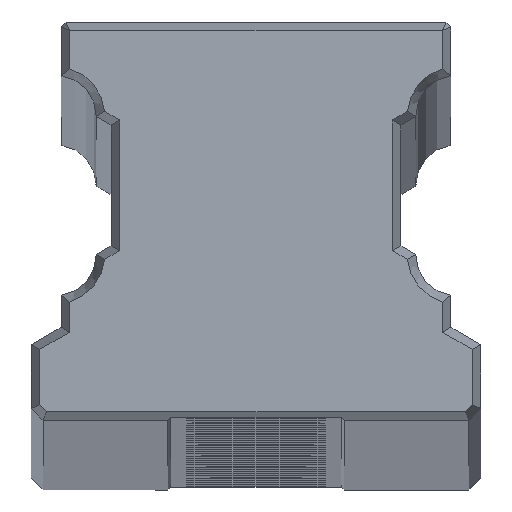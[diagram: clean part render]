
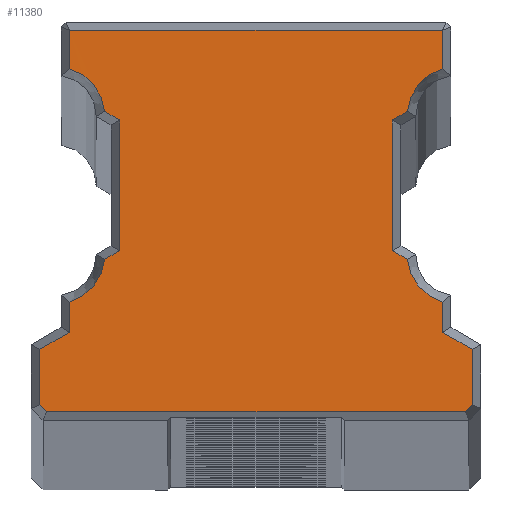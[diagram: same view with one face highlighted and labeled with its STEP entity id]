
A CAD part, top view. The second image highlights one B-rep face of the part: STEP entity #11380.
In plain terms, the highlighted planar face has unit normal (0, 0, 1).
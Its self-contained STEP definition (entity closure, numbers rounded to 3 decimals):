
#3982=DIRECTION('',(1.,0.,0.));
#3983=VECTOR('',#3982,41.896);
#3984=CARTESIAN_POINT('',(-20.948,0.85,0.));
#3985=LINE('',#3984,#3983);
#3986=DIRECTION('',(0.707,-0.707,0.));
#3987=VECTOR('',#3986,0.993);
#3988=CARTESIAN_POINT('',(-21.65,1.552,0.));
#3989=LINE('',#3988,#3987);
#3990=DIRECTION('',(0.,-1.,0.));
#3991=VECTOR('',#3990,5.525);
#3992=CARTESIAN_POINT('',(-21.65,7.077,0.));
#3993=LINE('',#3992,#3991);
#3994=DIRECTION('',(-0.866,-0.5,0.));
#3995=VECTOR('',#3994,3.464);
#3996=CARTESIAN_POINT('',(-18.65,8.809,0.));
#3997=LINE('',#3996,#3995);
#3998=DIRECTION('',(0.,-1.,0.));
#3999=VECTOR('',#3998,3.021);
#4000=CARTESIAN_POINT('',(-18.65,11.831,0.));
#4001=LINE('',#4000,#3999);
#4002=CARTESIAN_POINT('',(-20.056,16.556,0.));
#4003=DIRECTION('',(0.,0.,-1.));
#4004=DIRECTION('',(0.996,-0.094,0.));
#4005=AXIS2_PLACEMENT_3D('',#4002,#4003,#4004);
#4007=DIRECTION('',(-0.866,-0.5,0.));
#4008=VECTOR('',#4007,1.729);
#4009=CARTESIAN_POINT('',(-13.65,16.959,0.));
#4010=LINE('',#4009,#4008);
#4011=DIRECTION('',(0.,-1.,0.));
#4012=VECTOR('',#4011,13.082);
#4013=CARTESIAN_POINT('',(-13.65,30.041,0.));
#4014=LINE('',#4013,#4012);
#4015=DIRECTION('',(0.866,-0.5,0.));
#4016=VECTOR('',#4015,1.729);
#4017=CARTESIAN_POINT('',(-15.147,30.906,0.));
#4018=LINE('',#4017,#4016);
#4019=CARTESIAN_POINT('',(-20.056,30.444,0.));
#4020=DIRECTION('',(0.,0.,-1.));
#4021=DIRECTION('',(0.285,0.958,0.));
#4022=AXIS2_PLACEMENT_3D('',#4019,#4020,#4021);
#4024=DIRECTION('',(0.,-1.,0.001));
#4025=VECTOR('',#4024,3.832);
#4026=CARTESIAN_POINT('',(-18.651,39.001,
-0.002));
#4027=LINE('',#4026,#4025);
#4028=DIRECTION('',(-1.,0.,0.));
#4029=VECTOR('',#4028,37.303);
#4030=CARTESIAN_POINT('',(18.651,39.001,
-0.002));
#4031=LINE('',#4030,#4029);
#4032=DIRECTION('',(0.,1.,-0.001));
#4033=VECTOR('',#4032,3.832);
#4034=CARTESIAN_POINT('',(18.65,35.169,0.));
#4035=LINE('',#4034,#4033);
#4036=CARTESIAN_POINT('',(20.056,30.444,0.));
#4037=DIRECTION('',(0.,0.,-1.));
#4038=DIRECTION('',(-0.996,0.094,0.));
#4039=AXIS2_PLACEMENT_3D('',#4036,#4037,#4038);
#4041=DIRECTION('',(0.866,0.5,0.));
#4042=VECTOR('',#4041,1.729);
#4043=CARTESIAN_POINT('',(13.65,30.041,0.));
#4044=LINE('',#4043,#4042);
#4045=DIRECTION('',(0.,1.,0.));
#4046=VECTOR('',#4045,13.082);
#4047=CARTESIAN_POINT('',(13.65,16.959,0.));
#4048=LINE('',#4047,#4046);
#4049=DIRECTION('',(-0.866,0.5,0.));
#4050=VECTOR('',#4049,1.729);
#4051=CARTESIAN_POINT('',(15.147,16.094,0.));
#4052=LINE('',#4051,#4050);
#4053=CARTESIAN_POINT('',(20.056,16.556,0.));
#4054=DIRECTION('',(0.,0.,-1.));
#4055=DIRECTION('',(-0.285,-0.958,0.));
#4056=AXIS2_PLACEMENT_3D('',#4053,#4054,#4055);
#4058=DIRECTION('',(0.,1.,0.));
#4059=VECTOR('',#4058,3.021);
#4060=CARTESIAN_POINT('',(18.65,8.809,0.));
#4061=LINE('',#4060,#4059);
#4062=DIRECTION('',(-0.866,0.5,0.));
#4063=VECTOR('',#4062,3.464);
#4064=CARTESIAN_POINT('',(21.65,7.077,0.));
#4065=LINE('',#4064,#4063);
#4066=DIRECTION('',(0.,1.,0.));
#4067=VECTOR('',#4066,5.525);
#4068=CARTESIAN_POINT('',(21.65,1.552,0.));
#4069=LINE('',#4068,#4067);
#4070=DIRECTION('',(0.707,0.707,0.));
#4071=VECTOR('',#4070,0.993);
#4072=CARTESIAN_POINT('',(20.948,0.85,0.));
#4073=LINE('',#4072,#4071);
#4674=CARTESIAN_POINT('',(-20.948,0.85,0.));
#4675=CARTESIAN_POINT('',(20.948,0.85,0.));
#4676=VERTEX_POINT('',#4674);
#4677=VERTEX_POINT('',#4675);
#4678=CARTESIAN_POINT('',(21.65,1.552,0.));
#4679=VERTEX_POINT('',#4678);
#4680=CARTESIAN_POINT('',(21.65,7.077,0.));
#4681=VERTEX_POINT('',#4680);
#4682=CARTESIAN_POINT('',(18.65,8.809,0.));
#4683=VERTEX_POINT('',#4682);
#4684=CARTESIAN_POINT('',(18.65,11.831,0.));
#4685=VERTEX_POINT('',#4684);
#4686=CARTESIAN_POINT('',(15.147,16.094,0.));
#4687=VERTEX_POINT('',#4686);
#4688=CARTESIAN_POINT('',(13.65,16.959,0.));
#4689=VERTEX_POINT('',#4688);
#4690=CARTESIAN_POINT('',(13.65,30.041,0.));
#4691=VERTEX_POINT('',#4690);
#4692=CARTESIAN_POINT('',(15.147,30.906,0.));
#4693=VERTEX_POINT('',#4692);
#4694=CARTESIAN_POINT('',(18.65,35.169,0.));
#4695=VERTEX_POINT('',#4694);
#4696=CARTESIAN_POINT('',(18.651,39.001,
-0.002));
#4697=VERTEX_POINT('',#4696);
#4698=CARTESIAN_POINT('',(-18.651,39.001,
-0.002));
#4699=VERTEX_POINT('',#4698);
#4700=CARTESIAN_POINT('',(-18.65,35.169,0.));
#4701=VERTEX_POINT('',#4700);
#4702=CARTESIAN_POINT('',(-15.147,30.906,0.));
#4703=VERTEX_POINT('',#4702);
#4704=CARTESIAN_POINT('',(-13.65,30.041,0.));
#4705=VERTEX_POINT('',#4704);
#4706=CARTESIAN_POINT('',(-13.65,16.959,0.));
#4707=VERTEX_POINT('',#4706);
#4708=CARTESIAN_POINT('',(-15.147,16.094,0.));
#4709=VERTEX_POINT('',#4708);
#4710=CARTESIAN_POINT('',(-18.65,11.831,0.));
#4711=VERTEX_POINT('',#4710);
#4712=CARTESIAN_POINT('',(-18.65,8.809,0.));
#4713=VERTEX_POINT('',#4712);
#4714=CARTESIAN_POINT('',(-21.65,7.077,0.));
#4715=VERTEX_POINT('',#4714);
#4716=CARTESIAN_POINT('',(-21.65,1.552,0.));
#4717=VERTEX_POINT('',#4716);
#11330=CARTESIAN_POINT('',(0.,0.,0.));
#11331=DIRECTION('',(0.,0.,1.));
#11332=DIRECTION('',(1.,0.,0.));
#11333=AXIS2_PLACEMENT_3D('',#11330,#11331,#11332);
#11334=PLANE('',#11333);
#11336=ORIENTED_EDGE('',*,*,#11335,.F.);
#11338=ORIENTED_EDGE('',*,*,#11337,.F.);
#11340=ORIENTED_EDGE('',*,*,#11339,.F.);
#11342=ORIENTED_EDGE('',*,*,#11341,.F.);
#11344=ORIENTED_EDGE('',*,*,#11343,.F.);
#11346=ORIENTED_EDGE('',*,*,#11345,.F.);
#11348=ORIENTED_EDGE('',*,*,#11347,.F.);
#11350=ORIENTED_EDGE('',*,*,#11349,.F.);
#11352=ORIENTED_EDGE('',*,*,#11351,.F.);
#11354=ORIENTED_EDGE('',*,*,#11353,.F.);
#11355=ORIENTED_EDGE('',*,*,#11320,.F.);
#11357=ORIENTED_EDGE('',*,*,#11356,.F.);
#11359=ORIENTED_EDGE('',*,*,#11358,.F.);
#11361=ORIENTED_EDGE('',*,*,#11360,.F.);
#11363=ORIENTED_EDGE('',*,*,#11362,.F.);
#11365=ORIENTED_EDGE('',*,*,#11364,.F.);
#11367=ORIENTED_EDGE('',*,*,#11366,.F.);
#11369=ORIENTED_EDGE('',*,*,#11368,.F.);
#11371=ORIENTED_EDGE('',*,*,#11370,.F.);
#11373=ORIENTED_EDGE('',*,*,#11372,.F.);
#11375=ORIENTED_EDGE('',*,*,#11374,.F.);
#11377=ORIENTED_EDGE('',*,*,#11376,.F.);
#11378=EDGE_LOOP('',(#11336,#11338,#11340,#11342,#11344,#11346,#11348,#11350,
#11352,#11354,#11355,#11357,#11359,#11361,#11363,#11365,#11367,#11369,#11371,
#11373,#11375,#11377));
#11379=FACE_OUTER_BOUND('',#11378,.F.);
#4006=CIRCLE('',#4005,4.93);
#4023=CIRCLE('',#4022,4.93);
#4040=CIRCLE('',#4039,4.93);
#4057=CIRCLE('',#4056,4.93);
#11320=EDGE_CURVE('',#4699,#4701,#4027,.T.);
#11335=EDGE_CURVE('',#4676,#4677,#3985,.T.);
#11337=EDGE_CURVE('',#4717,#4676,#3989,.T.);
#11339=EDGE_CURVE('',#4715,#4717,#3993,.T.);
#11341=EDGE_CURVE('',#4713,#4715,#3997,.T.);
#11343=EDGE_CURVE('',#4711,#4713,#4001,.T.);
#11345=EDGE_CURVE('',#4709,#4711,#4006,.T.);
#11347=EDGE_CURVE('',#4707,#4709,#4010,.T.);
#11349=EDGE_CURVE('',#4705,#4707,#4014,.T.);
#11351=EDGE_CURVE('',#4703,#4705,#4018,.T.);
#11353=EDGE_CURVE('',#4701,#4703,#4023,.T.);
#11356=EDGE_CURVE('',#4697,#4699,#4031,.T.);
#11358=EDGE_CURVE('',#4695,#4697,#4035,.T.);
#11360=EDGE_CURVE('',#4693,#4695,#4040,.T.);
#11362=EDGE_CURVE('',#4691,#4693,#4044,.T.);
#11364=EDGE_CURVE('',#4689,#4691,#4048,.T.);
#11366=EDGE_CURVE('',#4687,#4689,#4052,.T.);
#11368=EDGE_CURVE('',#4685,#4687,#4057,.T.);
#11370=EDGE_CURVE('',#4683,#4685,#4061,.T.);
#11372=EDGE_CURVE('',#4681,#4683,#4065,.T.);
#11374=EDGE_CURVE('',#4679,#4681,#4069,.T.);
#11376=EDGE_CURVE('',#4677,#4679,#4073,.T.);
#11380=ADVANCED_FACE('',(#11379),#11334,.T.);
